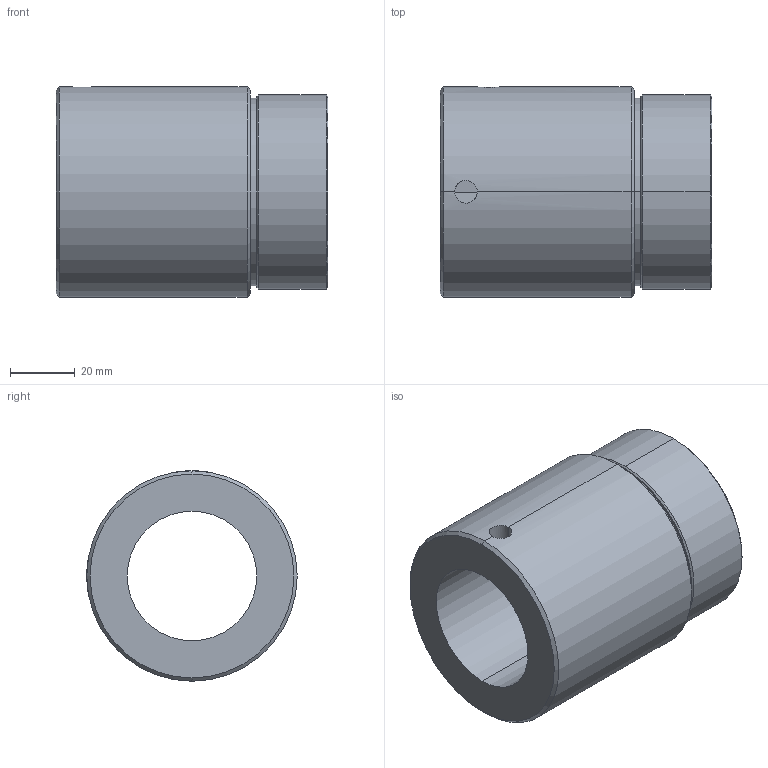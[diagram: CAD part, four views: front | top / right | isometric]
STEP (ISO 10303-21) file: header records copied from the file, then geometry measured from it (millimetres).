
FILE_DESCRIPTION (( 'STEP AP214' ), '1' );
FILE_NAME ('KGM-E-4010-RH.STEP', '2021-03-19T01:51:49', ( 'user' ), ( 'datathink' ), 'SwSTEP 2.0', 'SolidWorks 2013', '' );
FILE_SCHEMA (( 'AUTOMOTIVE_DESIGN' ));
Length unit declared in the file: millimetre
Products named in the file (1): KGM-E-4010-RH
Bounding box: 84 x 65 x 65 mm (x, y, z)
Volume: 160149.4 mm3; surface area: 31731.6 mm2
Topology: 1 solids, 1 shells, 25 faces, 54 edges, 32 vertices
Faces by surface type: cylinder 12, cone 8, plane 5
Entity records: 906 total; most frequent: CARTESIAN_POINT 310, DIRECTION 126, ORIENTED_EDGE 108, EDGE_CURVE 54, AXIS2_PLACEMENT_3D 52, VERTEX_POINT 32, EDGE_LOOP 30, CIRCLE 26
